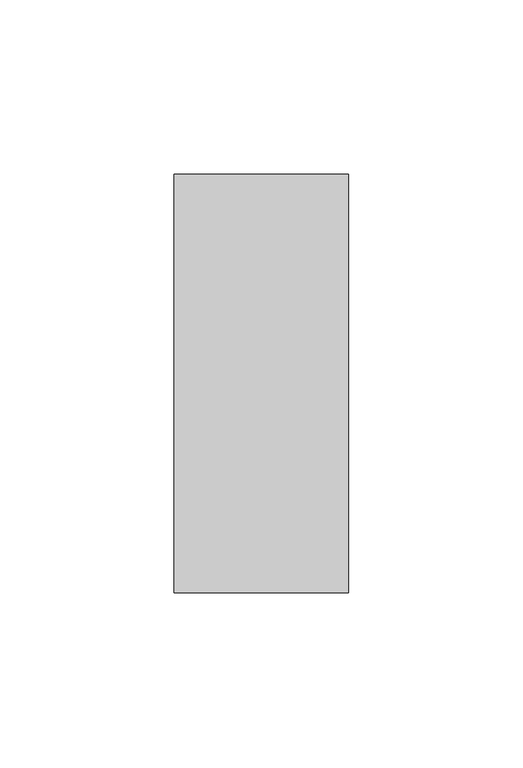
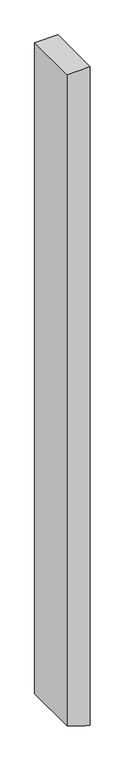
"""IFC4 building model written with IfcOpenShell, lengths in millimetres: member geometry, Прямоугольный импост : 50х120 мм."""

from ifc_helpers import new_model, si_unit, frame, origin, place, context, project, spatial, polyline, outline, extrude, source, transform, mapped, element, save


def member_ffb9b795(model_context):
    return source(origin(), model_context, "Body", "SweptSolid", [
        extrude(outline(polyline([(0.0, 25.0), (0.0, -25.0), (-1482.80045, -25.0), (-1495.9437278, 15.4508497), (-1499.0464348, 25.0), (0.0, 25.0)])), frame((0.0, -60.0, 0.0), z_axis=(0.0, 1.0, 0.0), x_axis=(0.0, 0.0, 1.0)), (0.0, 0.0, 1.0), 120.0),
    ])


if __name__ == "__main__":
    model = new_model("IFC4")
    model_context = context("Model", 3, world=origin())
    ifc_project = project(units=[si_unit("LENGTHUNIT", "METRE", prefix="MILLI")], contexts=[model_context])
    site = spatial("IfcSite", under=ifc_project)
    building = spatial("IfcBuilding", under=site)
    placement = place(None, origin())
    member_shape = member_ffb9b795(model_context)
    element("IfcMember", 1, ObjectType="Прямоугольный импост : 50х120 мм", at=placement, inside=building, context=model_context, shape_type="MappedRepresentation", body=[
        mapped(member_shape, transform((0.0, 0.0, 0.0), x_axis=(1.0, 0.0, 0.0), y_axis=(0.0, 1.0, 0.0), z_axis=(0.0, 0.0, 1.0))),
    ])
    save(model, "model.ifc")
